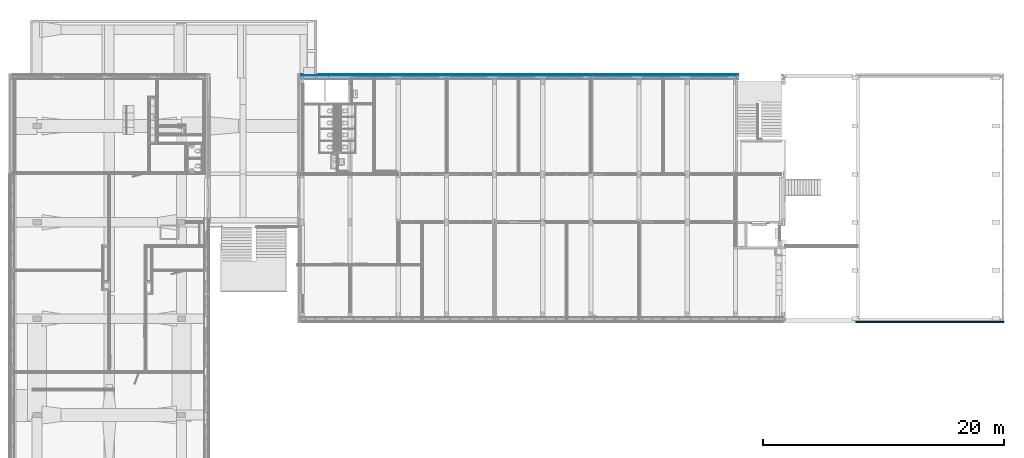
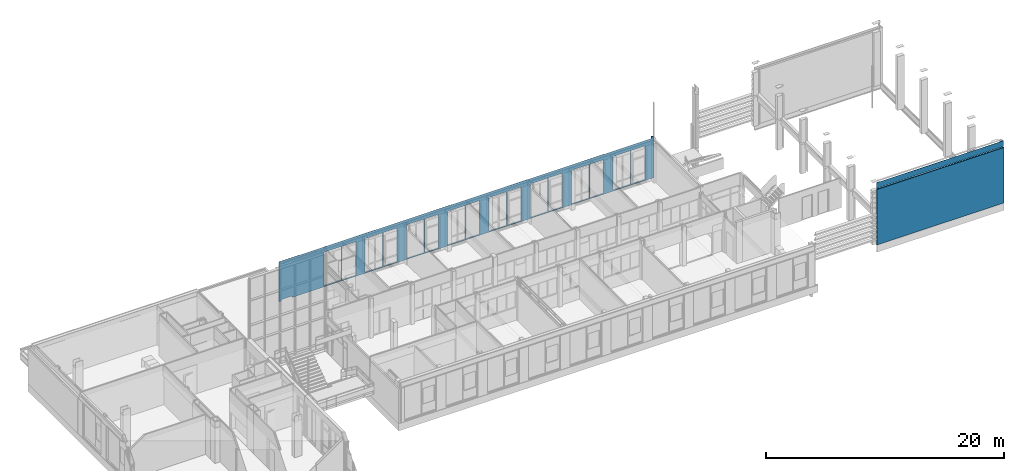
# One storey, part 60 of 94: 4 building element parts, 16 openings, 2 elements without a shape of their own.
"""IFC2X3 building model written with IfcOpenShell, lengths in millimetres."""

from ifc_helpers import new_model, entity, si_unit, converted_unit, derived_unit, money_unit, direction, frame, origin_with_axes, place, context, subcontext, project, spatial, faceted_brep, material, type_object, element, aggregate, save


model = new_model("IFC2X3")

# Units and contexts
model_context = context("Model", 3, precision=0.01, world=origin_with_axes(), true_north=direction((0.0, 1.0)))
body_context = subcontext(model_context, "Body", "Model", "MODEL_VIEW")
ifc_project = project(units=[si_unit("LENGTHUNIT", "METRE", prefix="MILLI"), si_unit("AREAUNIT", "SQUARE_METRE"), si_unit("VOLUMEUNIT", "CUBIC_METRE"), converted_unit("PLANEANGLEUNIT", "DEGREE", entity("IfcPlaneAngleMeasure", 0.0174532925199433), si_unit("PLANEANGLEUNIT", "RADIAN"), dimensions=[0, 0, 0, 0, 0, 0, 0]), money_unit("EUR"), converted_unit("TIMEUNIT", "Year", entity("IfcTimeMeasure", 31557600.0), si_unit("TIMEUNIT", "SECOND"), dimensions=[0, 0, 1, 0, 0, 0, 0]), si_unit("MASSUNIT", "GRAM", prefix="KILO"), si_unit("THERMODYNAMICTEMPERATUREUNIT", "DEGREE_CELSIUS"), si_unit("LUMINOUSINTENSITYUNIT", "LUMEN"), si_unit("ENERGYUNIT", "JOULE", prefix="MEGA"), derived_unit("THERMALCONDUCTANCEUNIT", [(si_unit("POWERUNIT", "WATT"), 1), (si_unit("LENGTHUNIT", "METRE"), -1), (si_unit("THERMODYNAMICTEMPERATUREUNIT", "KELVIN"), -1)]), derived_unit("SPECIFICHEATCAPACITYUNIT", [(si_unit("ENERGYUNIT", "JOULE"), 1), (si_unit("MASSUNIT", "GRAM", prefix="KILO"), -1), (si_unit("THERMODYNAMICTEMPERATUREUNIT", "KELVIN"), -1)]), derived_unit("MASSDENSITYUNIT", [(si_unit("MASSUNIT", "GRAM", prefix="KILO"), 1), (si_unit("VOLUMEUNIT", "CUBIC_METRE"), -1)])], contexts=[model_context])

# Site, building, storey
site_placement = place(None, origin_with_axes())
site = spatial("IfcSite", under=ifc_project, at=site_placement, Name="<site naam>", CompositionType="ELEMENT")
building_placement = place(site_placement, origin_with_axes())
building = spatial("IfcBuilding", under=site, at=building_placement, Name="<Naam gebouw>", CompositionType="ELEMENT")
storey_placement = place(building_placement, frame((0.0, 0.0, 4250.0), z_axis=(0.0, 0.0, 1.0), x_axis=(1.0, 0.0, 0.0)))
storey = spatial("IfcBuildingStorey", under=building, at=storey_placement, Name="01 1e verdieping", CompositionType="ELEMENT", Elevation=4250.0)

# Wall, building element part
wall_type_1 = type_object("IfcWallType", Name="metselwerk-lucht-kalkzandsteen 335 335", PredefinedType="NOTDEFINED")
wall_1_placement = place(storey_placement, frame((58000.00000000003, -324.089321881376, 2125.0), z_axis=(0.0, 0.0, 1.0), x_axis=(1.0, 0.0, 0.0)))
wall_1 = element("IfcWall", 1, at=wall_1_placement, inside=storey, type_object=wall_type_1, Name="21_Binnenwand_metselwerk-lucht-kalkzandsteen")
ifc_material_1 = material(Name="metselwerk AFW")
building_element_part_1_placement = place(wall_1_placement, origin_with_axes())
building_element_part_1 = element("IfcBuildingElementPart", 2, at=building_element_part_1_placement, material=ifc_material_1, Name="metselwerk AFW", context=body_context, shape_type="Brep", body=[
    faceted_brep([(12309.99999999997, 29.08932698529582, 5685.000112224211), (12309.99999999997, 0.0, 5685.000112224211), (12309.99999999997, 0.0, 0.0), (12309.99999999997, 110.0000000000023, 0.0), (12310.00000429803, 110.0000000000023, 5685.000062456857), (12310.00000429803, 59.08931796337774, 5685.000112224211), (12310.00000429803, 59.08931796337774, 5715.000035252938), (12309.99999999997, 29.08932698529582, 5715.000035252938), (0.0, 29.08932698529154, 5685.000112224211), (0.0, 0.0, 5685.000112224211), (0.0, 0.0, 0.0), (0.0, 109.9999999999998, 0.0), (11974.99999999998, 110.0000000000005, 5685.000112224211), (0.0, 109.9999999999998, 5515.000000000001), (45.00000000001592, 109.9999999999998, 5515.000000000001), (45.00000000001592, 109.9999999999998, 5685.000112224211), (325.0000000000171, 109.9999999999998, 5685.000112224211), (325.0000000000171, 109.9999999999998, 5515.000000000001), (11974.99999999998, 110.0000000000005, 5515.000000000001), (11974.99999999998, 70.00000000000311, 5685.000112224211), (325.0000000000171, 69.99999999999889, 5685.000112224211), (45.00000000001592, 69.99999999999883, 5685.000112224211), (0.0, 69.99999999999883, 5685.000112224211), (0.0, 59.08931796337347, 5685.000112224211), (0.0, 59.08931796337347, 5715.000035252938), (0.0, 29.08932698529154, 5715.000035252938), (0.0, 69.99999999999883, 5515.000000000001), (45.00000000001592, 69.99999999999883, 5515.000000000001), (325.0000000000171, 69.99999999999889, 5515.000000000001), (11974.99999999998, 70.00000000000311, 5515.000000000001)], [[[0, 1, 2, 3, 4, 5, 6, 7]], [[1, 0, 8, 9]], [[1, 9, 10, 2]], [[10, 11, 3, 2]], [[12, 4, 3, 11, 13, 14, 15, 16, 17, 18]], [[12, 19, 20, 16, 15, 21, 22, 23, 5, 4]], [[6, 5, 23, 24]], [[7, 6, 24, 25]], [[0, 7, 25, 8]], [[23, 22, 26, 13, 11, 10, 9, 8, 25, 24]], [[14, 13, 26, 27]], [[21, 15, 14, 27]], [[16, 20, 28, 17]], [[18, 17, 28, 29]], [[19, 12, 18, 29]], [[20, 19, 29, 28]], [[22, 21, 27, 26]]]),
    faceted_brep([(12310.00000429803, 110.0000000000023, 6344.99999987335), (11974.99999999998, 110.0000000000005, 6345.000049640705), (11974.99999999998, 70.00000000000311, 6345.000049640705), (325.0000000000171, 69.99999999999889, 6345.000049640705), (325.0000000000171, 109.9999999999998, 6345.000049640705), (45.00000000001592, 109.9999999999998, 6345.000049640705), (45.00000000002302, 69.99999999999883, 6345.000049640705), (0.0, 69.99999999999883, 6345.000049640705), (0.0, 59.08931796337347, 6345.000049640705), (12310.00000429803, 59.08931796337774, 6345.000049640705), (12310.00000429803, 110.0000000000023, 5754.999961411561), (12280.00000199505, 110.0000000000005, 5754.999961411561), (12280.00000199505, 110.0000000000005, 5784.999971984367), (11974.99999999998, 110.0000000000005, 5785.000021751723), (11974.99999999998, 110.0000000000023, 6175.000014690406), (12224.99999999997, 110.0000000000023, 6175.000014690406), (12224.99999999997, 110.0000000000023, 6325.000014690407), (11974.99999999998, 110.0000000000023, 6325.000014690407), (11974.99999999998, 71.08932188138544, 6325.000014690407), (11974.99999999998, 71.08932188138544, 6175.000014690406), (11974.99999999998, 89.08932026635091, 5785.000021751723), (11974.99999999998, 89.08932026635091, 5755.000011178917), (11974.99999999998, 70.00000000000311, 5755.000011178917), (325.0000000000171, 69.99999999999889, 5755.000011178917), (325.0000000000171, 89.08932026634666, 5755.000011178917), (325.0000000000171, 89.08932026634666, 5785.000021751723), (325.0000000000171, 109.9999999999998, 5785.000021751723), (325.0000000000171, 109.9999999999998, 6175.000014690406), (325.0000000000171, 71.08932188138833, 6175.000014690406), (325.0000000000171, 71.08932188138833, 6325.000014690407), (325.0000000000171, 109.9999999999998, 6325.000014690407), (45.00000000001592, 109.9999999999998, 6325.000014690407), (45.00000000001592, 71.08932188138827, 6325.000014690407), (45.00000000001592, 71.08932188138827, 6175.000014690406), (45.00000000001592, 109.9999999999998, 6175.000014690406), (45.00000000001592, 109.9999999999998, 5785.000021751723), (45.00000000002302, 89.08932026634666, 5785.000021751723), (45.00000000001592, 89.08932026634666, 5755.000011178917), (45.00000000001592, 69.99999999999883, 5755.000011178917), (0.0, 69.99999999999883, 5755.000011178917), (0.0, 59.08931796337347, 5755.000011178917), (12310.00000429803, 59.08931796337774, 5755.000011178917), (12280.00000199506, 89.08932026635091, 5755.000011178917), (12280.00000199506, 89.08932026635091, 5785.000021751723), (12224.99999999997, 71.08932188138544, 6175.000014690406), (12224.99999999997, 71.08932188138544, 6325.000014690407)], [[[0, 1, 2, 3, 4, 5, 6, 7, 8, 9]], [[1, 0, 10, 11, 12, 13, 14, 15, 16, 17]], [[2, 1, 17, 18, 19, 14, 13, 20, 21, 22]], [[3, 2, 22, 23]], [[4, 3, 23, 24, 25, 26, 27, 28, 29, 30]], [[5, 4, 30, 31]], [[6, 5, 31, 32, 33, 34, 35, 36, 37, 38]], [[7, 6, 38, 39]], [[8, 7, 39, 40]], [[8, 40, 41, 9]], [[9, 41, 10, 0]], [[41, 40, 39, 38, 37, 24, 23, 22, 21, 42, 11, 10]], [[42, 43, 12, 11]], [[43, 20, 13, 12]], [[14, 19, 44, 15]], [[45, 16, 15, 44]], [[18, 17, 16, 45]], [[19, 18, 45, 44]], [[43, 42, 21, 20]], [[25, 24, 37, 36]], [[35, 26, 25, 36]], [[26, 35, 34, 27]], [[28, 27, 34, 33]], [[29, 28, 33, 32]], [[30, 29, 32, 31]]]),
])
aggregate(wall_1, [building_element_part_1])

# Wall, openings, building element parts
wall_type_2 = type_object("IfcWallType", Name="HSB_285 gevelbeplating 420", PredefinedType="NOTDEFINED")
wall_2_placement = place(storey_placement, frame((48251.99999966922, 20298.00000000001, 0.0), z_axis=(0.0, 0.0, 1.0), x_axis=(-1.0, 0.0, 0.0)))
wall_2 = element("IfcWall", 3, at=wall_2_placement, inside=storey, type_object=wall_type_2, Name="21_Binnenwand_HSB_285")
opening_1_placement = place(wall_2_placement, frame((3140.999999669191, 0.0, 99.99999999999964), z_axis=(0.0, 0.0, 1.0), x_axis=(1.0, 0.0, 0.0)))
element("IfcOpeningElement", 4, at=opening_1_placement, cuts=wall_2, Name="21_BU-A-12a sp_305", context=body_context, shape_type="Brep", body=[
    faceted_brep([(850.9999999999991, 213.000000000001, 3450.0), (-850.9999999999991, 213.000000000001, 3450.0), (-850.9999999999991, -1.000000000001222, 3450.0), (850.9999999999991, -1.000000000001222, 3450.0), (850.9999999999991, 421.000000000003, 3450.0), (-850.9999999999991, 421.000000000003, 3450.0), (-850.9999999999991, 213.000000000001, 0.0), (-850.9999999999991, -1.000000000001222, 0.0), (850.9999999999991, -1.000000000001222, 0.0), (850.9999999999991, 213.000000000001, 0.0), (850.9999999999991, 421.000000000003, 0.0), (-850.9999999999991, 421.000000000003, 0.0)], [[[0, 1, 2, 3]], [[1, 0, 4, 5]], [[1, 6, 7, 2]], [[2, 7, 8, 3]], [[9, 0, 3, 8]], [[0, 9, 10, 4]], [[4, 10, 11, 5]], [[6, 1, 5, 11]], [[6, 9, 8, 7]], [[9, 6, 11, 10]]]),
])
opening_2_placement = place(wall_2_placement, frame((1551.00001094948, 0.0, 99.99999999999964), z_axis=(0.0, 0.0, 1.0), x_axis=(1.0, 0.0, 0.0)))
element("IfcOpeningElement", 5, at=opening_2_placement, cuts=wall_2, Name="21_BU-A-12b sp_305", context=body_context, shape_type="Brep", body=[
    faceted_brep([(662.9999999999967, 213.000000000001, 3450.0), (-662.9999999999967, 213.000000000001, 3450.0), (-662.9999999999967, -1.000000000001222, 3450.0), (662.9999999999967, -1.000000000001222, 3450.0), (662.9999999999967, 421.000000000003, 3450.0), (-662.9999999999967, 421.000000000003, 3450.0), (-662.9999999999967, 213.000000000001, 0.0), (-662.9999999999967, -1.000000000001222, 0.0), (662.9999999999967, -1.000000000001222, 0.0), (662.9999999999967, 213.000000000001, 0.0), (662.9999999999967, 421.000000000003, 0.0), (-662.9999999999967, 421.000000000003, 0.0)], [[[0, 1, 2, 3]], [[1, 0, 4, 5]], [[1, 6, 7, 2]], [[2, 7, 8, 3]], [[9, 0, 3, 8]], [[0, 9, 10, 4]], [[4, 10, 11, 5]], [[6, 1, 5, 11]], [[6, 9, 8, 7]], [[9, 6, 11, 10]]]),
])
opening_3_placement = place(wall_2_placement, frame((7140.999999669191, 0.0, 99.99999999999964), z_axis=(0.0, 0.0, 1.0), x_axis=(1.0, 0.0, 0.0)))
element("IfcOpeningElement", 6, at=opening_3_placement, cuts=wall_2, Name="21_BU-A-12a sp_305", context=body_context, shape_type="Brep", body=[
    faceted_brep([(850.9999999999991, 213.000000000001, 3450.0), (-850.9999999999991, 213.000000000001, 3450.0), (-850.9999999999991, -1.000000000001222, 3450.0), (850.9999999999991, -1.000000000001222, 3450.0), (850.9999999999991, 421.000000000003, 3450.0), (-850.9999999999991, 421.000000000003, 3450.0), (-850.9999999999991, 213.000000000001, 0.0), (-850.9999999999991, -1.000000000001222, 0.0), (850.9999999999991, -1.000000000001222, 0.0), (850.9999999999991, 213.000000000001, 0.0), (850.9999999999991, 421.000000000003, 0.0), (-850.9999999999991, 421.000000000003, 0.0)], [[[0, 1, 2, 3]], [[1, 0, 4, 5]], [[1, 6, 7, 2]], [[2, 7, 8, 3]], [[9, 0, 3, 8]], [[0, 9, 10, 4]], [[4, 10, 11, 5]], [[6, 1, 5, 11]], [[6, 9, 8, 7]], [[9, 6, 11, 10]]]),
])
opening_4_placement = place(wall_2_placement, frame((9550.999999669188, 0.0, 99.99999999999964), z_axis=(0.0, 0.0, 1.0), x_axis=(1.0, 0.0, 0.0)))
element("IfcOpeningElement", 7, at=opening_4_placement, cuts=wall_2, Name="21_BU-A-12b sp_305", context=body_context, shape_type="Brep", body=[
    faceted_brep([(662.9999999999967, 213.000000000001, 3450.0), (-662.9999999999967, 213.000000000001, 3450.0), (-662.9999999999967, -1.000000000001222, 3450.0), (662.9999999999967, -1.000000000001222, 3450.0), (662.9999999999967, 421.000000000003, 3450.0), (-662.9999999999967, 421.000000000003, 3450.0), (-662.9999999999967, 213.000000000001, 0.0), (-662.9999999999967, -1.000000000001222, 0.0), (662.9999999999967, -1.000000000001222, 0.0), (662.9999999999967, 213.000000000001, 0.0), (662.9999999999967, 421.000000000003, 0.0), (-662.9999999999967, 421.000000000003, 0.0)], [[[0, 1, 2, 3]], [[1, 0, 4, 5]], [[1, 6, 7, 2]], [[2, 7, 8, 3]], [[9, 0, 3, 8]], [[0, 9, 10, 4]], [[4, 10, 11, 5]], [[6, 1, 5, 11]], [[6, 9, 8, 7]], [[9, 6, 11, 10]]]),
])
opening_5_placement = place(wall_2_placement, frame((11140.99999966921, 0.0, 99.99999999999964), z_axis=(0.0, 0.0, 1.0), x_axis=(1.0, 0.0, 0.0)))
element("IfcOpeningElement", 8, at=opening_5_placement, cuts=wall_2, Name="21_BU-A-12a sp_305", context=body_context, shape_type="Brep", body=[
    faceted_brep([(850.9999999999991, 213.000000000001, 3450.0), (-850.9999999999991, 213.000000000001, 3450.0), (-850.9999999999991, -1.000000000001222, 3450.0), (850.9999999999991, -1.000000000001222, 3450.0), (850.9999999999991, 421.000000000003, 3450.0), (-850.9999999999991, 421.000000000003, 3450.0), (-850.9999999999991, 213.000000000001, 0.0), (-850.9999999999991, -1.000000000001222, 0.0), (850.9999999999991, -1.000000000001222, 0.0), (850.9999999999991, 213.000000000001, 0.0), (850.9999999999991, 421.000000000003, 0.0), (-850.9999999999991, 421.000000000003, 0.0)], [[[0, 1, 2, 3]], [[1, 0, 4, 5]], [[1, 6, 7, 2]], [[2, 7, 8, 3]], [[9, 0, 3, 8]], [[0, 9, 10, 4]], [[4, 10, 11, 5]], [[6, 1, 5, 11]], [[6, 9, 8, 7]], [[9, 6, 11, 10]]]),
])
opening_6_placement = place(wall_2_placement, frame((15140.99998838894, 0.0, 99.99999999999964), z_axis=(0.0, 0.0, 1.0), x_axis=(1.0, 0.0, 0.0)))
element("IfcOpeningElement", 9, at=opening_6_placement, cuts=wall_2, Name="21_BU-A-12a sp_305", context=body_context, shape_type="Brep", body=[
    faceted_brep([(850.9999999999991, 212.9999999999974, 3450.0), (-850.9999999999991, 212.9999999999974, 3450.0), (-850.9999999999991, -1.000000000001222, 3450.0), (850.9999999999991, -1.000000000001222, 3450.0), (850.9999999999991, 421.000000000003, 3450.0), (-850.9999999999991, 421.000000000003, 3450.0), (-850.9999999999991, 212.9999999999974, 0.0), (-850.9999999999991, -1.000000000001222, 0.0), (850.9999999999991, -1.000000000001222, 0.0), (850.9999999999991, 212.9999999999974, 0.0), (850.9999999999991, 421.000000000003, 0.0), (-850.9999999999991, 421.000000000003, 0.0)], [[[0, 1, 2, 3]], [[1, 0, 4, 5]], [[1, 6, 7, 2]], [[2, 7, 8, 3]], [[9, 0, 3, 8]], [[0, 9, 10, 4]], [[4, 10, 11, 5]], [[6, 1, 5, 11]], [[6, 9, 8, 7]], [[9, 6, 11, 10]]]),
])
opening_7_placement = place(wall_2_placement, frame((13550.99999966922, 0.0, 99.99999999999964), z_axis=(0.0, 0.0, 1.0), x_axis=(1.0, 0.0, 0.0)))
element("IfcOpeningElement", 10, at=opening_7_placement, cuts=wall_2, Name="21_BU-A-12b sp_305", context=body_context, shape_type="Brep", body=[
    faceted_brep([(662.9999999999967, 213.000000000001, 3450.0), (-662.9999999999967, 213.000000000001, 3450.0), (-662.9999999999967, -1.000000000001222, 3450.0), (662.9999999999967, -1.000000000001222, 3450.0), (662.9999999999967, 421.000000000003, 3450.0), (-662.9999999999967, 421.000000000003, 3450.0), (-662.9999999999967, 213.000000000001, 0.0), (-662.9999999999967, -1.000000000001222, 0.0), (662.9999999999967, -1.000000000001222, 0.0), (662.9999999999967, 213.000000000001, 0.0), (662.9999999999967, 421.000000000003, 0.0), (-662.9999999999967, 421.000000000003, 0.0)], [[[0, 1, 2, 3]], [[1, 0, 4, 5]], [[1, 6, 7, 2]], [[2, 7, 8, 3]], [[9, 0, 3, 8]], [[0, 9, 10, 4]], [[4, 10, 11, 5]], [[6, 1, 5, 11]], [[6, 9, 8, 7]], [[9, 6, 11, 10]]]),
])
opening_8_placement = place(wall_2_placement, frame((19140.98053610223, 0.0, 99.99999999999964), z_axis=(0.0, 0.0, 1.0), x_axis=(1.0, 0.0, 0.0)))
element("IfcOpeningElement", 11, at=opening_8_placement, cuts=wall_2, Name="21_BU-A-12a sp_305", context=body_context, shape_type="Brep", body=[
    faceted_brep([(850.9999999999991, 212.9999999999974, 3450.0), (-850.9999999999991, 212.9999999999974, 3450.0), (-850.9999999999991, -1.000000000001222, 3450.0), (850.9999999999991, -1.000000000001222, 3450.0), (850.9999999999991, 421.000000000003, 3450.0), (-850.9999999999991, 421.000000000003, 3450.0), (-850.9999999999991, 212.9999999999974, 0.0), (-850.9999999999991, -1.000000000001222, 0.0), (850.9999999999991, -1.000000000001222, 0.0), (850.9999999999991, 212.9999999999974, 0.0), (850.9999999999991, 421.000000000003, 0.0), (-850.9999999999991, 421.000000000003, 0.0)], [[[0, 1, 2, 3]], [[1, 0, 4, 5]], [[1, 6, 7, 2]], [[2, 7, 8, 3]], [[9, 0, 3, 8]], [[0, 9, 10, 4]], [[4, 10, 11, 5]], [[6, 1, 5, 11]], [[6, 9, 8, 7]], [[9, 6, 11, 10]]]),
])
opening_9_placement = place(wall_2_placement, frame((17550.99999966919, 0.0, 99.99999999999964), z_axis=(0.0, 0.0, 1.0), x_axis=(1.0, 0.0, 0.0)))
element("IfcOpeningElement", 12, at=opening_9_placement, cuts=wall_2, Name="21_BU-A-12b sp_305", context=body_context, shape_type="Brep", body=[
    faceted_brep([(663.0000000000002, 212.9999999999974, 3450.0), (-663.0000000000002, 212.9999999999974, 3450.0), (-663.0000000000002, -1.000000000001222, 3450.0), (663.0000000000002, -1.000000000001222, 3450.0), (663.0000000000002, 421.000000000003, 3450.0), (-663.0000000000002, 421.000000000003, 3450.0), (-663.0000000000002, 212.9999999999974, 0.0), (-663.0000000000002, -1.000000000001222, 0.0), (663.0000000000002, -1.000000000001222, 0.0), (663.0000000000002, 212.9999999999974, 0.0), (663.0000000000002, 421.000000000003, 0.0), (-663.0000000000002, 421.000000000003, 0.0)], [[[0, 1, 2, 3]], [[1, 0, 4, 5]], [[1, 6, 7, 2]], [[2, 7, 8, 3]], [[9, 0, 3, 8]], [[0, 9, 10, 4]], [[4, 10, 11, 5]], [[6, 1, 5, 11]], [[6, 9, 8, 7]], [[9, 6, 11, 10]]]),
])
opening_10_placement = place(wall_2_placement, frame((5550.999999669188, 0.0, 99.99999999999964), z_axis=(0.0, 0.0, 1.0), x_axis=(1.0, 0.0, 0.0)))
element("IfcOpeningElement", 13, at=opening_10_placement, cuts=wall_2, Name="21_BU-A-12b sp_305", context=body_context, shape_type="Brep", body=[
    faceted_brep([(662.9999999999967, 213.000000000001, 3450.0), (-662.9999999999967, 213.000000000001, 3450.0), (-662.9999999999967, -1.000000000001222, 3450.0), (662.9999999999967, -1.000000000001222, 3450.0), (662.9999999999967, 421.000000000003, 3450.0), (-662.9999999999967, 421.000000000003, 3450.0), (-662.9999999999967, 213.000000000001, 0.0), (-662.9999999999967, -1.000000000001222, 0.0), (662.9999999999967, -1.000000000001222, 0.0), (662.9999999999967, 213.000000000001, 0.0), (662.9999999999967, 421.000000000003, 0.0), (-662.9999999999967, 421.000000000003, 0.0)], [[[0, 1, 2, 3]], [[1, 0, 4, 5]], [[1, 6, 7, 2]], [[2, 7, 8, 3]], [[9, 0, 3, 8]], [[0, 9, 10, 4]], [[4, 10, 11, 5]], [[6, 1, 5, 11]], [[6, 9, 8, 7]], [[9, 6, 11, 10]]]),
])
opening_11_placement = place(wall_2_placement, frame((23141.0125073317, 0.0, 99.99999999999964), z_axis=(0.0, 0.0, 1.0), x_axis=(1.0, 0.0, 0.0)))
element("IfcOpeningElement", 14, at=opening_11_placement, cuts=wall_2, Name="21_BU-A-12a sp_305", context=body_context, shape_type="Brep", body=[
    faceted_brep([(850.9999999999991, 212.9999999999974, 3450.0), (-850.9999999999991, 212.9999999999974, 3450.0), (-850.9999999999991, -1.000000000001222, 3450.0), (850.9999999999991, -1.000000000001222, 3450.0), (850.9999999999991, 421.000000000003, 3450.0), (-850.9999999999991, 421.000000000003, 3450.0), (-850.9999999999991, 212.9999999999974, 0.0), (-850.9999999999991, -1.000000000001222, 0.0), (850.9999999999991, -1.000000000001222, 0.0), (850.9999999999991, 212.9999999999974, 0.0), (850.9999999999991, 421.000000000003, 0.0), (-850.9999999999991, 421.000000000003, 0.0)], [[[0, 1, 2, 3]], [[1, 0, 4, 5]], [[1, 6, 7, 2]], [[2, 7, 8, 3]], [[9, 0, 3, 8]], [[0, 9, 10, 4]], [[4, 10, 11, 5]], [[6, 1, 5, 11]], [[6, 9, 8, 7]], [[9, 6, 11, 10]]]),
])
opening_12_placement = place(wall_2_placement, frame((21550.98053610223, 0.0, 99.99999999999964), z_axis=(0.0, 0.0, 1.0), x_axis=(1.0, 0.0, 0.0)))
element("IfcOpeningElement", 15, at=opening_12_placement, cuts=wall_2, Name="21_BU-A-12b sp_305", context=body_context, shape_type="Brep", body=[
    faceted_brep([(663.0000000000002, 212.9999999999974, 3450.0), (-663.0000000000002, 212.9999999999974, 3450.0), (-663.0000000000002, -1.000000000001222, 3450.0), (663.0000000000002, -1.000000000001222, 3450.0), (663.0000000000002, 421.000000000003, 3450.0), (-663.0000000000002, 421.000000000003, 3450.0), (-663.0000000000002, 212.9999999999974, 0.0), (-663.0000000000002, -1.000000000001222, 0.0), (663.0000000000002, -1.000000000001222, 0.0), (663.0000000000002, 212.9999999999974, 0.0), (663.0000000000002, 421.000000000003, 0.0), (-663.0000000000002, 421.000000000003, 0.0)], [[[0, 1, 2, 3]], [[1, 0, 4, 5]], [[1, 6, 7, 2]], [[2, 7, 8, 3]], [[9, 0, 3, 8]], [[0, 9, 10, 4]], [[4, 10, 11, 5]], [[6, 1, 5, 11]], [[6, 9, 8, 7]], [[9, 6, 11, 10]]]),
])
opening_13_placement = place(wall_2_placement, frame((25550.99999966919, 0.0, 99.99999999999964), z_axis=(0.0, 0.0, 1.0), x_axis=(1.0, 0.0, 0.0)))
element("IfcOpeningElement", 16, at=opening_13_placement, cuts=wall_2, Name="21_BU-A-12b sp_305", context=body_context, shape_type="Brep", body=[
    faceted_brep([(663.0000000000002, 212.9999999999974, 3450.0), (-663.0000000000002, 212.9999999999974, 3450.0), (-663.0000000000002, -1.000000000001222, 3450.0), (663.0000000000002, -1.000000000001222, 3450.0), (663.0000000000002, 421.000000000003, 3450.0), (-663.0000000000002, 421.000000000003, 3450.0), (-663.0000000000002, 212.9999999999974, 0.0), (-663.0000000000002, -1.000000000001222, 0.0), (663.0000000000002, -1.000000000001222, 0.0), (663.0000000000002, 212.9999999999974, 0.0), (663.0000000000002, 421.000000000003, 0.0), (-663.0000000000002, 421.000000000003, 0.0)], [[[0, 1, 2, 3]], [[1, 0, 4, 5]], [[1, 6, 7, 2]], [[2, 7, 8, 3]], [[9, 0, 3, 8]], [[0, 9, 10, 4]], [[4, 10, 11, 5]], [[6, 1, 5, 11]], [[6, 9, 8, 7]], [[9, 6, 11, 10]]]),
])
opening_14_placement = place(wall_2_placement, frame((27140.99999966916, 0.0, 99.99999999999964), z_axis=(0.0, 0.0, 1.0), x_axis=(1.0, 0.0, 0.0)))
element("IfcOpeningElement", 17, at=opening_14_placement, cuts=wall_2, Name="21_BU-A-12a sp_305", context=body_context, shape_type="Brep", body=[
    faceted_brep([(850.9999999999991, 212.9999999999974, 3450.0), (-850.9999999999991, 212.9999999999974, 3450.0), (-850.9999999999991, -1.000000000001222, 3450.0), (850.9999999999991, -1.000000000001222, 3450.0), (850.9999999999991, 421.000000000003, 3450.0), (-850.9999999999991, 421.000000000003, 3450.0), (-850.9999999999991, 212.9999999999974, 0.0), (-850.9999999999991, -1.000000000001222, 0.0), (850.9999999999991, -1.000000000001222, 0.0), (850.9999999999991, 212.9999999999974, 0.0), (850.9999999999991, 421.000000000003, 0.0), (-850.9999999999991, 421.000000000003, 0.0)], [[[0, 1, 2, 3]], [[1, 0, 4, 5]], [[1, 6, 7, 2]], [[2, 7, 8, 3]], [[9, 0, 3, 8]], [[0, 9, 10, 4]], [[4, 10, 11, 5]], [[6, 1, 5, 11]], [[6, 9, 8, 7]], [[9, 6, 11, 10]]]),
])
opening_15_placement = place(wall_2_placement, frame((29551.00001094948, 0.0, 99.99999999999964), z_axis=(0.0, 0.0, 1.0), x_axis=(1.0, 0.0, 0.0)))
element("IfcOpeningElement", 18, at=opening_15_placement, cuts=wall_2, Name="21_BU-A-12b sp_305", context=body_context, shape_type="Brep", body=[
    faceted_brep([(663.0000000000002, 212.9999999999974, 3450.0), (-663.0000000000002, 212.9999999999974, 3450.0), (-663.0000000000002, -1.000000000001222, 3450.0), (663.0000000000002, -1.000000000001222, 3450.0), (663.0000000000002, 421.000000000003, 3450.0), (-663.0000000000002, 421.000000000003, 3450.0), (-663.0000000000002, 212.9999999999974, 0.0), (-663.0000000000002, -1.000000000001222, 0.0), (663.0000000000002, -1.000000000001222, 0.0), (663.0000000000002, 212.9999999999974, 0.0), (663.0000000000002, 421.000000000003, 0.0), (-663.0000000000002, 421.000000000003, 0.0)], [[[0, 1, 2, 3]], [[1, 0, 4, 5]], [[1, 6, 7, 2]], [[2, 7, 8, 3]], [[9, 0, 3, 8]], [[0, 9, 10, 4]], [[4, 10, 11, 5]], [[6, 1, 5, 11]], [[6, 9, 8, 7]], [[9, 6, 11, 10]]]),
])
opening_16_placement = place(wall_2_placement, frame((31140.99998838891, 0.0, 99.99999999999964), z_axis=(0.0, 0.0, 1.0), x_axis=(1.0, 0.0, 0.0)))
element("IfcOpeningElement", 19, at=opening_16_placement, cuts=wall_2, Name="21_BU-A-12a sp_305", context=body_context, shape_type="Brep", body=[
    faceted_brep([(850.9999999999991, 212.9999999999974, 3450.0), (-850.9999999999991, 212.9999999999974, 3450.0), (-850.9999999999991, -1.000000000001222, 3450.0), (850.9999999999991, -1.000000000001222, 3450.0), (850.9999999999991, 421.000000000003, 3450.0), (-850.9999999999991, 421.000000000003, 3450.0), (-850.9999999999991, 212.9999999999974, 0.0), (-850.9999999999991, -1.000000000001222, 0.0), (850.9999999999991, -1.000000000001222, 0.0), (850.9999999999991, 212.9999999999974, 0.0), (850.9999999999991, 421.000000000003, 0.0), (-850.9999999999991, 421.000000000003, 0.0)], [[[0, 1, 2, 3]], [[1, 0, 4, 5]], [[1, 6, 7, 2]], [[2, 7, 8, 3]], [[9, 0, 3, 8]], [[0, 9, 10, 4]], [[4, 10, 11, 5]], [[6, 1, 5, 11]], [[6, 9, 8, 7]], [[9, 6, 11, 10]]]),
])
ifc_material_2 = material(Name="brandwerende_bekleding")
building_element_part_2_placement = place(wall_2_placement, origin_with_axes())
building_element_part_2 = element("IfcBuildingElementPart", 20, at=building_element_part_2_placement, material=ifc_material_2, Name="brandwerende_bekleding", context=body_context, shape_type="Brep", body=[
    faceted_brep([(36316.99999966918, 102.4999999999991, 4100.0), (251.999999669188, 102.5000000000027, 4100.0), (251.999999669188, 102.5000000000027, 4220.000000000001), (251.999999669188, 102.4999999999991, 4250.0), (0.0, 102.4999999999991, 4250.0), (0.0, 102.4999999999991, 0.0), (35076.99999966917, 102.4999999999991, 0.0), (35076.99999966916, 102.4999999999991, 150.0000000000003), (36106.0753710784, 102.4999999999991, 150.0000000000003), (36106.0753710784, 102.4999999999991, 0.0), (36316.99999966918, 102.4999999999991, 0.0), (36316.99999966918, 106.9999999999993, 4100.0), (251.999999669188, 107.0000000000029, 4100.0), (251.999999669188, 107.0000000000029, 4220.000000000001), (251.999999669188, 106.9999999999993, 4250.0), (0.0, 106.9999999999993, 4250.0), (0.0, 106.9999999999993, 0.0), (35076.99999966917, 106.9999999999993, 0.0), (35076.99999966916, 106.9999999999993, 150.0000000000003), (36106.0753710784, 106.9999999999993, 150.0000000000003), (36106.0753710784, 106.9999999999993, 0.0), (36316.99999966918, 106.9999999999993, 0.0)], [[[0, 1, 2, 3, 4, 5, 6, 7, 8, 9, 10]], [[1, 0, 11, 12]], [[2, 1, 12, 13, 14, 3]], [[4, 3, 14, 15]], [[5, 4, 15, 16]], [[5, 16, 17, 6]], [[17, 18, 7, 6]], [[18, 19, 8, 7]], [[19, 20, 9, 8]], [[21, 10, 9, 20]], [[11, 0, 10, 21]], [[12, 11, 21, 20, 19, 18, 17, 16, 15, 14, 13]]]),
])
ifc_material_3 = material(Name="folie_dampopen")
building_element_part_3_placement = place(wall_2_placement, origin_with_axes())
building_element_part_3 = element("IfcBuildingElementPart", 21, at=building_element_part_3_placement, material=ifc_material_3, Name="folie_dampopen", context=body_context, shape_type="Brep", body=[
    faceted_brep([(36316.99999966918, 101.9999999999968, 4100.0), (251.999999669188, 102.0000000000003, 4100.0), (251.999999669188, 102.0000000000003, 4220.000000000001), (251.999999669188, 102.0000000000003, 4250.0), (0.0, 102.0000000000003, 4250.0), (0.0, 102.0000000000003, 0.0), (35076.99999966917, 101.9999999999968, 0.0), (35076.99999966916, 101.9999999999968, 150.0000000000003), (36106.0753710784, 101.9999999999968, 150.0000000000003), (36106.0753710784, 101.9999999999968, 0.0), (36316.99999966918, 101.9999999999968, 0.0), (36316.99999966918, 102.4999999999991, 4100.0), (251.999999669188, 102.5000000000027, 4100.0), (251.999999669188, 102.5000000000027, 4220.000000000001), (251.999999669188, 102.4999999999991, 4250.0), (0.0, 102.4999999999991, 4250.0), (0.0, 102.4999999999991, 0.0), (35076.99999966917, 102.4999999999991, 0.0), (35076.99999966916, 102.4999999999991, 150.0000000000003), (36106.0753710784, 102.4999999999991, 150.0000000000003), (36106.0753710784, 102.4999999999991, 0.0), (36316.99999966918, 102.4999999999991, 0.0)], [[[0, 1, 2, 3, 4, 5, 6, 7, 8, 9, 10]], [[1, 0, 11, 12]], [[2, 1, 12, 13, 14, 3]], [[4, 3, 14, 15]], [[5, 4, 15, 16]], [[5, 16, 17, 6]], [[17, 18, 7, 6]], [[18, 19, 8, 7]], [[19, 20, 9, 8]], [[21, 10, 9, 20]], [[11, 0, 10, 21]], [[12, 11, 21, 20, 19, 18, 17, 16, 15, 14, 13]]]),
])
ifc_material_4 = material(Name="metaal - Aluminium gevelplaat")
building_element_part_4_placement = place(wall_2_placement, origin_with_axes())
building_element_part_4 = element("IfcBuildingElementPart", 22, at=building_element_part_4_placement, material=ifc_material_4, Name="metaal - Aluminium gevelplaat", context=body_context, shape_type="Brep", body=[
    faceted_brep([(251.999999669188, 0.0, 3510.000062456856), (251.999999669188, 40.0000000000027, 3510.000062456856), (251.999999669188, 39.99999999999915, 4250.0), (251.999999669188, 0.0, 4250.0), (36316.99999966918, 39.99999999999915, 3510.000062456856), (36316.99999966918, 0.0, 3510.000062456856), (36316.99999966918, 3.000004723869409, 3510.000062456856), (36316.99999966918, 32.99999998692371, 3510.000062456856), (36316.99999966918, 39.99999999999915, 0.0), (36106.0753710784, 39.99999999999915, 0.0), (36106.0753710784, 39.99999999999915, 150.0000000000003), (35076.99999966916, 39.99999999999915, 150.0000000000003), (35076.99999966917, 39.99999999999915, 0.0), (0.0, 39.99999999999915, 0.0), (0.0, 39.99999999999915, 4250.0), (0.0, 0.0, 4250.0), (36316.99999966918, 0.0, 0.0), (0.0, 0.0, 0.0), (35076.99999966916, 0.0, 0.0), (35076.99999966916, 0.0, 150.0000000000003), (36106.0753710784, 0.0, 150.0000000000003), (36106.07537107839, 0.0, 0.0)], [[[0, 1, 2, 3]], [[4, 1, 0, 5, 6, 7]], [[2, 1, 4, 8, 9, 10, 11, 12, 13, 14]], [[15, 3, 2, 14]], [[16, 5, 0, 3, 15, 17, 18, 19, 20, 21]], [[7, 6, 5, 16, 8, 4]], [[8, 16, 21, 9]], [[10, 9, 21, 20]], [[11, 10, 20, 19]], [[12, 11, 19, 18]], [[17, 13, 12, 18]], [[17, 15, 14, 13]]]),
])
aggregate(wall_2, [building_element_part_2, building_element_part_3, building_element_part_4])

save(model, "model.ifc")
